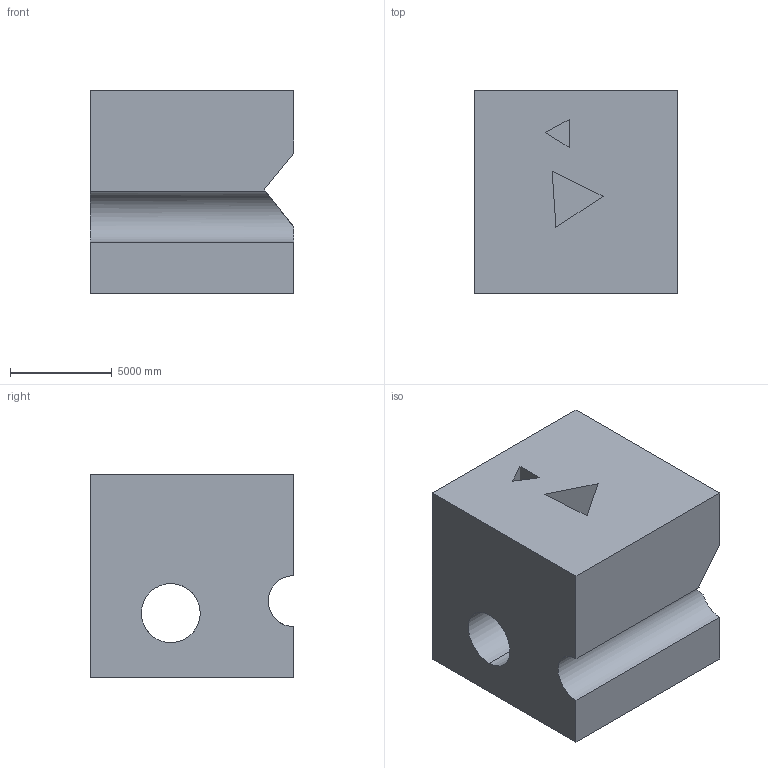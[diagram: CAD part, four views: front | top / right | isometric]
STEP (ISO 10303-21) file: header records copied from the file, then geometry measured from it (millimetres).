
FILE_DESCRIPTION (( 'STEP AP203' ), '1' );
FILE_NAME ('645.STEP', '2022-07-29T12:16:43', ( 'user' ), ( '' ), 'SwSTEP 2.0', 'SolidWorks 2021', '' );
FILE_SCHEMA (( 'CONFIG_CONTROL_DESIGN' ));
Length unit declared in the file: centimetre
Products named in the file (1): 645
Bounding box: 10000 x 10000 x 10000 mm (x, y, z)
Volume: 846034467842.3 mm3; surface area: 736826092.9 mm2
Topology: 1 solids, 1 shells, 30 faces, 78 edges, 52 vertices
Faces by surface type: plane 26, cylinder 4
Entity records: 991 total; most frequent: CARTESIAN_POINT 170, ORIENTED_EDGE 156, DIRECTION 145, EDGE_CURVE 78, LINE 67, VECTOR 67, VERTEX_POINT 52, AXIS2_PLACEMENT_3D 39
